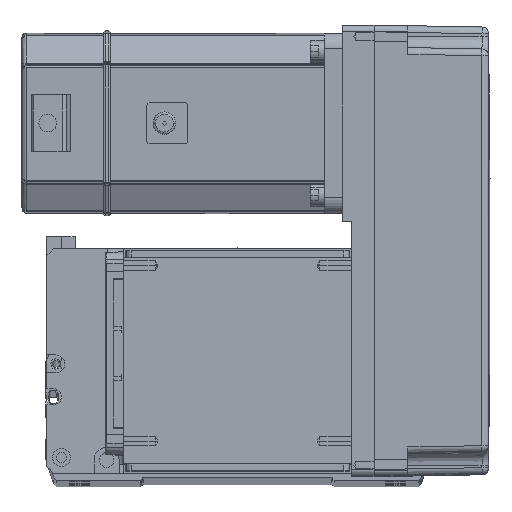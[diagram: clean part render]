
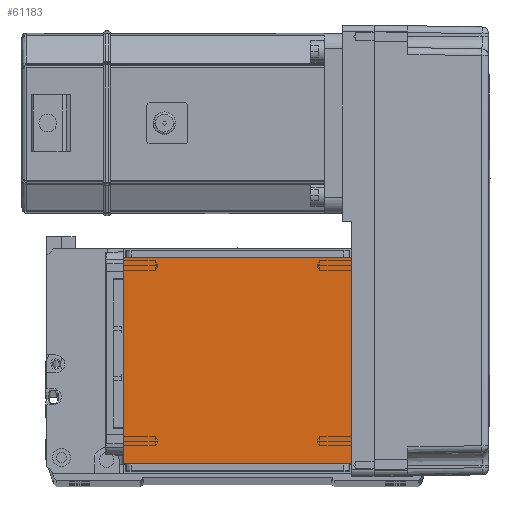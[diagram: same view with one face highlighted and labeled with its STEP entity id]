
A CAD part, top view. The second image highlights one B-rep face of the part: STEP entity #61183.
In plain terms, the highlighted planar face has unit normal (0, 0, 1).
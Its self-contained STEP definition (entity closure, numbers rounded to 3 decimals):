
#1853 = VERTEX_POINT ( 'NONE', #14325 ) ;
#2674 = VECTOR ( 'NONE', #40016, 1000. ) ;
#4549 = LINE ( 'NONE', #59210, #20750 ) ;
#9216 = VECTOR ( 'NONE', #51005, 1000. ) ;
#9706 = LINE ( 'NONE', #40274, #50309 ) ;
#14325 = CARTESIAN_POINT ( 'NONE',  ( 50.5, 20., 115. ) ) ;
#15022 = PLANE ( 'NONE',  #23792 ) ;
#16665 = LINE ( 'NONE', #59053, #2674 ) ;
#18593 = ORIENTED_EDGE ( 'NONE', *, *, #29022, .F. ) ;
#20750 = VECTOR ( 'NONE', #58800, 1000. ) ;
#23792 = AXIS2_PLACEMENT_3D ( 'NONE', #42699, #43718, #35006 ) ;
#23982 = CARTESIAN_POINT ( 'NONE',  ( -50.5, 20., 115. ) ) ;
#27876 = EDGE_CURVE ( 'NONE', #1853, #34539, #16665, .T. ) ;
#29022 = EDGE_CURVE ( 'NONE', #1853, #54735, #52750, .T. ) ;
#31865 = EDGE_CURVE ( 'NONE', #36269, #54735, #9706, .T. ) ;
#33309 = FACE_OUTER_BOUND ( 'NONE', #50299, .T. ) ;
#34539 = VERTEX_POINT ( 'NONE', #53949 ) ;
#35006 = DIRECTION ( 'NONE',  ( 1., 0., 0. ) ) ;
#36269 = VERTEX_POINT ( 'NONE', #36999 ) ;
#36999 = CARTESIAN_POINT ( 'NONE',  ( -50.5, 111.5, 115. ) ) ;
#38488 = ORIENTED_EDGE ( 'NONE', *, *, #52572, .F. ) ;
#39011 = ORIENTED_EDGE ( 'NONE', *, *, #31865, .T. ) ;
#40016 = DIRECTION ( 'NONE',  ( 0., 1., 0. ) ) ;
#40274 = CARTESIAN_POINT ( 'NONE',  ( -50.5, 122., 115. ) ) ;
#42699 = CARTESIAN_POINT ( 'NONE',  ( 0., 0., 115. ) ) ;
#43718 = DIRECTION ( 'NONE',  ( 0., 0., 1. ) ) ;
#45039 = DIRECTION ( 'NONE',  ( 0., -1., 0. ) ) ;
#49709 = ORIENTED_EDGE ( 'NONE', *, *, #27876, .T. ) ;
#50299 = EDGE_LOOP ( 'NONE', ( #38488, #39011, #18593, #49709 ) ) ;
#50309 = VECTOR ( 'NONE', #45039, 1000. ) ;
#51005 = DIRECTION ( 'NONE',  ( -1., 0., 0. ) ) ;
#51425 = CARTESIAN_POINT ( 'NONE',  ( -70.004, 20., 115. ) ) ;
#52572 = EDGE_CURVE ( 'NONE', #36269, #34539, #4549, .T. ) ;
#52750 = LINE ( 'NONE', #51425, #9216 ) ;
#53949 = CARTESIAN_POINT ( 'NONE',  ( 50.5, 111.5, 115. ) ) ;
#54735 = VERTEX_POINT ( 'NONE', #23982 ) ;
#58800 = DIRECTION ( 'NONE',  ( 1., 0., 0. ) ) ;
#59053 = CARTESIAN_POINT ( 'NONE',  ( 50.5, 122., 115. ) ) ;
#59210 = CARTESIAN_POINT ( 'NONE',  ( -70.004, 111.5, 115. ) ) ;
#61183 = ADVANCED_FACE ( 'NONE', ( #33309 ), #15022, .T. ) ;
